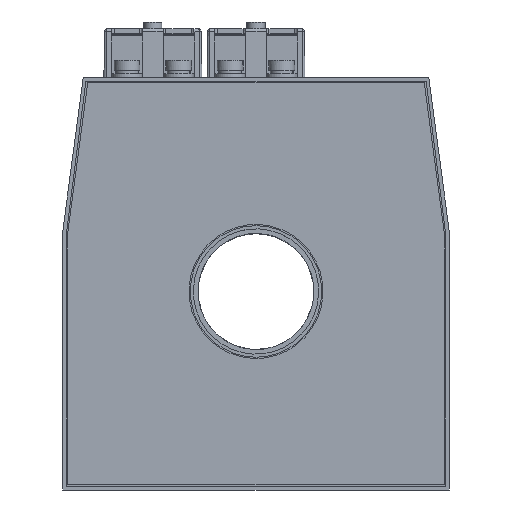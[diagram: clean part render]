
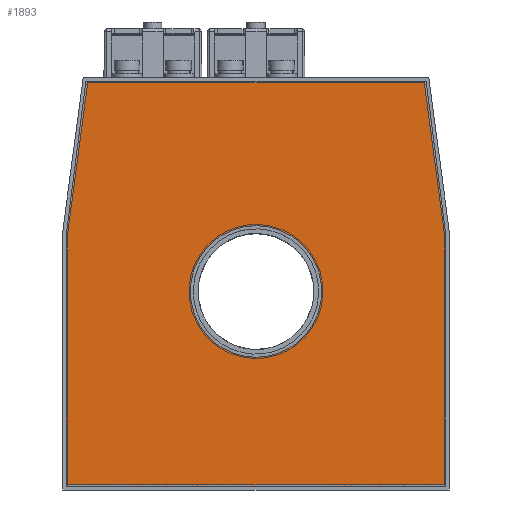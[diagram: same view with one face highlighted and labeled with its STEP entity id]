
A CAD part, top view. The second image highlights one B-rep face of the part: STEP entity #1893.
In plain terms, the highlighted planar face has unit normal (0, 0, 1).
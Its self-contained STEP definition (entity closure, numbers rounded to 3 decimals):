
#1893=ADVANCED_FACE('',(#3751,#3753),#3755,.T.);
#3751=FACE_BOUND('',#3752,.T.);
#3752=EDGE_LOOP('',(#5912,#5913,#5914,#5915,#5916,#5917));
#3753=FACE_BOUND('',#3754,.T.);
#3754=EDGE_LOOP('',(#5918));
#3755=PLANE('',#3756);
#3756=AXIS2_PLACEMENT_3D('',#3757,#3758,#3759);
#3757=CARTESIAN_POINT('',(0.,0.,5.));
#3758=DIRECTION('',(0.,0.,1.));
#3759=DIRECTION('',(1.,0.,0.));
#5912=ORIENTED_EDGE('',*,*,#6583,.T.);
#5913=ORIENTED_EDGE('',*,*,#6584,.T.);
#5914=ORIENTED_EDGE('',*,*,#6585,.T.);
#5915=ORIENTED_EDGE('',*,*,#6586,.T.);
#5916=ORIENTED_EDGE('',*,*,#6587,.T.);
#5917=ORIENTED_EDGE('',*,*,#6588,.T.);
#5918=ORIENTED_EDGE('',*,*,#6589,.T.);
#6583=EDGE_CURVE('',#7113,#7114,#7115,.T.);
#6584=EDGE_CURVE('',#7114,#7116,#7117,.T.);
#6585=EDGE_CURVE('',#7116,#7118,#7119,.T.);
#6586=EDGE_CURVE('',#7118,#7120,#7121,.T.);
#6587=EDGE_CURVE('',#7120,#7122,#7123,.T.);
#6588=EDGE_CURVE('',#7122,#7113,#7124,.T.);
#6589=EDGE_CURVE('',#7125,#7125,#7126,.F.);
#7113=VERTEX_POINT('',#8195);
#7114=VERTEX_POINT('',#8196);
#7115=LINE('',#8197,#8198);
#7116=VERTEX_POINT('',#8200);
#7117=LINE('',#8201,#8202);
#7118=VERTEX_POINT('',#8204);
#7119=LINE('',#8205,#8206);
#7120=VERTEX_POINT('',#8208);
#7121=LINE('',#8209,#8210);
#7122=VERTEX_POINT('',#8212);
#7123=LINE('',#8213,#8214);
#7124=LINE('',#8216,#8217);
#7125=VERTEX_POINT('',#8219);
#7126=CIRCLE('',#8220,25.5);
#8195=CARTESIAN_POINT('',(-73.5,19.815,5.));
#8196=CARTESIAN_POINT('',(-73.5,-78.5,5.));
#8197=CARTESIAN_POINT('',(-73.5,19.815,5.));
#8198=VECTOR('',#8199,1.);
#8199=DIRECTION('',(0.,-1.,0.));
#8200=CARTESIAN_POINT('',(73.5,-78.5,5.));
#8201=CARTESIAN_POINT('',(-73.5,-78.5,5.));
#8202=VECTOR('',#8203,1.);
#8203=DIRECTION('',(1.,0.,0.));
#8204=CARTESIAN_POINT('',(73.5,19.815,5.));
#8205=CARTESIAN_POINT('',(73.5,-78.5,5.));
#8206=VECTOR('',#8207,1.);
#8207=DIRECTION('',(0.,1.,0.));
#8208=CARTESIAN_POINT('',(66.,78.5,5.));
#8209=CARTESIAN_POINT('',(73.5,19.815,5.));
#8210=VECTOR('',#8211,1.);
#8211=DIRECTION('',(-0.127,0.992,0.));
#8212=CARTESIAN_POINT('',(-66.,78.5,5.));
#8213=CARTESIAN_POINT('',(66.,78.5,5.));
#8214=VECTOR('',#8215,1.);
#8215=DIRECTION('',(-1.,0.,0.));
#8216=CARTESIAN_POINT('',(-66.,78.5,5.));
#8217=VECTOR('',#8218,1.);
#8218=DIRECTION('',(-0.127,-0.992,0.));
#8219=CARTESIAN_POINT('',(25.5,-3.,5.));
#8220=AXIS2_PLACEMENT_3D('',#8221,#8222,#8223);
#8221=CARTESIAN_POINT('',(0.,-3.,5.));
#8222=DIRECTION('',(0.,0.,1.));
#8223=DIRECTION('',(1.,0.,0.));
